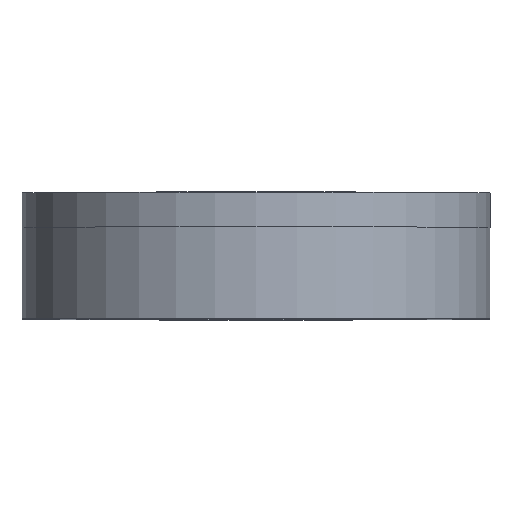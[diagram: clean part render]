
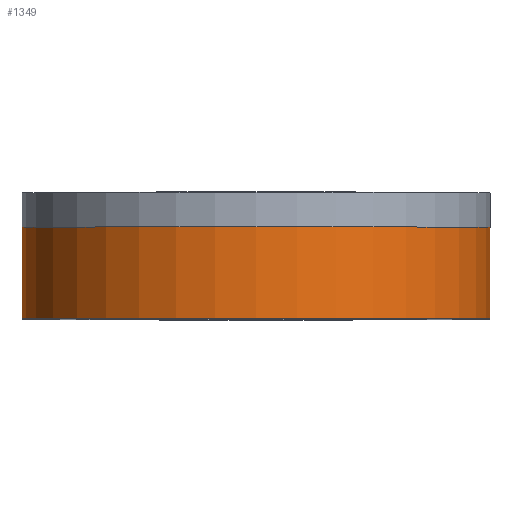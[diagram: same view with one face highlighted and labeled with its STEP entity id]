
A CAD part, top view. The second image highlights one B-rep face of the part: STEP entity #1349.
In plain terms, the highlighted cylindrical face has radius 24.13 mm (diameter 48.26 mm), a partial arc.
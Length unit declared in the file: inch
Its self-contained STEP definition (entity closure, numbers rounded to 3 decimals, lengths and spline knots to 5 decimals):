
#35 = VERTEX_POINT ( 'NONE', #3025 ) ;
#89 = VERTEX_POINT ( 'NONE', #2600 ) ;
#1349 = ADVANCED_FACE ( 'NONE', ( #14029 ), #14038, .T. ) ;
#2600 = CARTESIAN_POINT ( 'NONE',  ( -1.9, -0.01955, 1.5625 ) ) ;
#3025 = CARTESIAN_POINT ( 'NONE',  ( 0., -0.01955, 1.5625 ) ) ;
#7555 = CARTESIAN_POINT ( 'NONE',  ( 0., -0.38955, 1.5625 ) ) ;
#7556 = DIRECTION ( 'NONE',  ( 0., 1., 0. ) ) ;
#8167 = CARTESIAN_POINT ( 'NONE',  ( -0.95, -0.38955, 1.5625 ) ) ;
#8168 = DIRECTION ( 'NONE',  ( 0., -1., 0. ) ) ;
#8169 = DIRECTION ( 'NONE',  ( 1., 0., 0. ) ) ;
#8332 = CARTESIAN_POINT ( 'NONE',  ( -1.9, -0.38955, 1.5625 ) ) ;
#8333 = DIRECTION ( 'NONE',  ( 0., 1., 0. ) ) ;
#8348 = CARTESIAN_POINT ( 'NONE',  ( -0.95, -0.01955, 1.5625 ) ) ;
#8349 = DIRECTION ( 'NONE',  ( 0., -1., 0. ) ) ;
#8350 = DIRECTION ( 'NONE',  ( 1., 0., 0. ) ) ;
#8636 = ORIENTED_EDGE ( 'NONE', *, *, #16181, .F. ) ;
#8655 = ORIENTED_EDGE ( 'NONE', *, *, #16194, .T. ) ;
#8674 = ORIENTED_EDGE ( 'NONE', *, *, #16154, .F. ) ;
#12558 = AXIS2_PLACEMENT_3D ( 'NONE', #8167, #8168, #8169 ) ;
#12573 = AXIS2_PLACEMENT_3D ( 'NONE', #8348, #8349, #8350 ) ;
#12786 = VERTEX_POINT ( 'NONE', #16638 ) ;
#13474 = VERTEX_POINT ( 'NONE', #16654 ) ;
#13726 = EDGE_LOOP ( 'NONE', ( #8655, #8636, #8674, #16555 ) ) ;
#14029 = FACE_OUTER_BOUND ( 'NONE', #13726, .T. ) ;
#14038 = CYLINDRICAL_SURFACE ( 'NONE', #17626, 0.95 ) ;
#16057 = EDGE_CURVE ( 'NONE', #12786, #35, #22211, .T. ) ;
#16154 = EDGE_CURVE ( 'NONE', #12786, #13474, #22323, .T. ) ;
#16181 = EDGE_CURVE ( 'NONE', #13474, #89, #22355, .T. ) ;
#16194 = EDGE_CURVE ( 'NONE', #35, #89, #22354, .T. ) ;
#16555 = ORIENTED_EDGE ( 'NONE', *, *, #16057, .T. ) ;
#16638 = CARTESIAN_POINT ( 'NONE',  ( 0., -0.38955, 1.5625 ) ) ;
#16654 = CARTESIAN_POINT ( 'NONE',  ( -1.9, -0.38955, 1.5625 ) ) ;
#17626 = AXIS2_PLACEMENT_3D ( 'NONE', #20826, #20537, #21135 ) ;
#20537 = DIRECTION ( 'NONE',  ( 0., 1., 0. ) ) ;
#20826 = CARTESIAN_POINT ( 'NONE',  ( -0.95, -0.38955, 1.5625 ) ) ;
#21135 = DIRECTION ( 'NONE',  ( -1., 0., 0. ) ) ;
#22211 = LINE ( 'NONE', #7555, #22217 ) ;
#22217 = VECTOR ( 'NONE', #7556, 39.37008 ) ;
#22323 = CIRCLE ( 'NONE', #12558, 0.95 ) ;
#22354 = CIRCLE ( 'NONE', #12573, 0.95 ) ;
#22355 = LINE ( 'NONE', #8332, #22356 ) ;
#22356 = VECTOR ( 'NONE', #8333, 39.37008 ) ;
